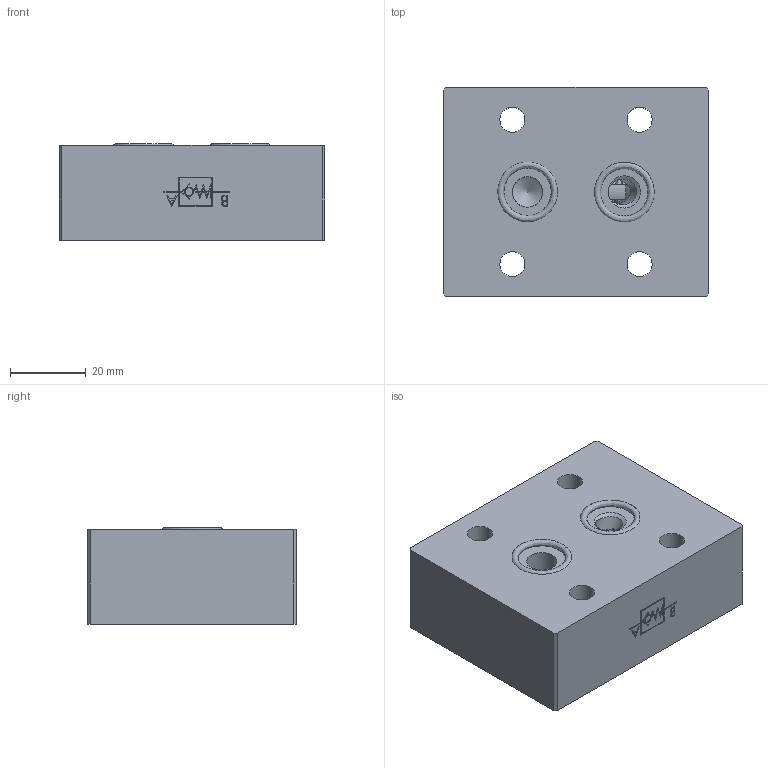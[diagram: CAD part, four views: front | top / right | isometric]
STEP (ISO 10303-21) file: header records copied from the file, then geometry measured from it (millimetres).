
FILE_DESCRIPTION (( 'STEP AP214' ), '1' );
FILE_NAME ('280-6-38.STEP', '2025-10-02T07:27:43', ( '' ), ( '' ), 'SwSTEP 2.0', 'SolidWorks 2025', '' );
FILE_SCHEMA (( 'AUTOMOTIVE_DESIGN' ));
Length unit declared in the file: millimetre
Products named in the file (8): SFERA 3-8 POLLICE (9.525mm); OR 2056; OR 2050; 280-6-38; MOLLA 260-6.009.00-38_COMPRESSA; CORPO VALVOLA 280-6.001.00-38; GUIDA SFERA 260-6.011.00-38; TAPPO 280-5.021.00.1-38
Assembly tree (8 placements, depth 2):
  280-6-38
    CORPO VALVOLA 280-6.001.00-38
    OR 2050  x2
    OR 2056
    TAPPO 280-5.021.00.1-38
    GUIDA SFERA 260-6.011.00-38
    MOLLA 260-6.009.00-38_COMPRESSA
    SFERA 3-8 POLLICE (9.525mm)
Bounding box: 70 x 55 x 25.49 mm (x, y, z)
Volume: 87048.8 mm3; surface area: 24148.2 mm2
Topology: 8 solids, 8 shells, 726 faces, 1879 edges, 1220 vertices
Faces by surface type: plane 431, bspline 152, cylinder 80, cone 61, torus 1, sphere 1
Full cylindrical faces by diameter (mm): 2.05 x1, 3.5 x1, 6.6 x4, 6.8 x1, 7.2 x2, 7.5 x1, 8 x1, 11 x4, 14.5 x1, 15.2 x2, 15.7 x2, 16.6 x1, 20 x1, 21 x1
Entity records: 41290 total; most frequent: CARTESIAN_POINT 24815, ORIENTED_EDGE 3588, DIRECTION 2760, EDGE_CURVE 1794, VERTEX_POINT 1206, LINE 1146, VECTOR 1146, EDGE_LOOP 878
